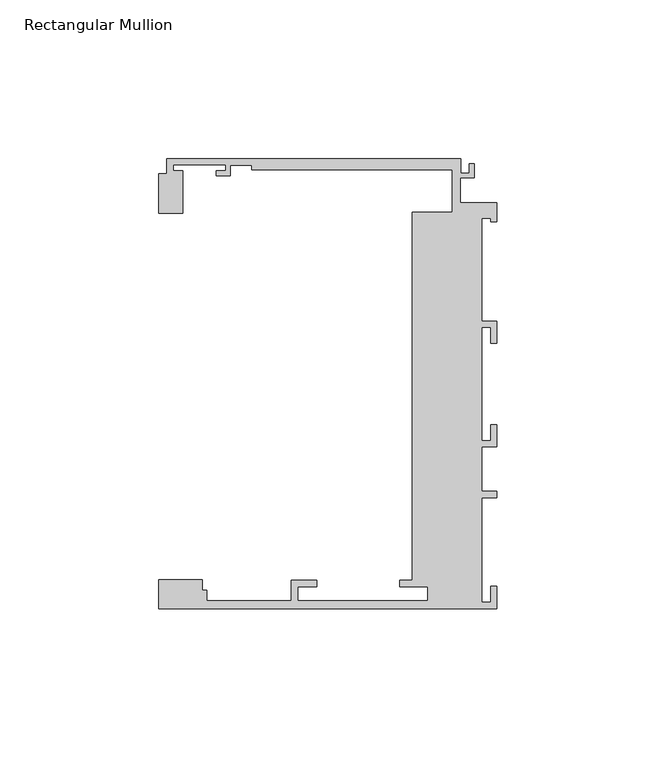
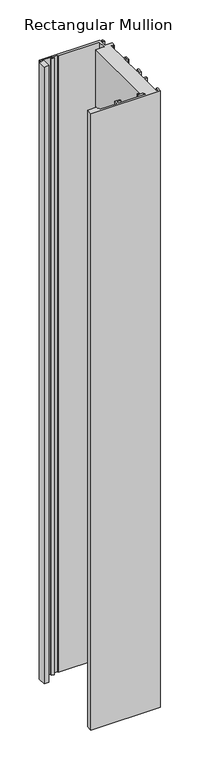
"""IFC4 building model written with IfcOpenShell, lengths in millimetres: member geometry, Rectangular Mullion : Danpal_K12_End-Mullion_B2."""

from ifc_helpers import new_model, si_unit, frame, origin, place, context, project, spatial, polyline, outline, extrude, source, transform, mapped, element, save


def rectangular_mullion_a3500bbd(model_context):
    return source(origin(), model_context, "Body", "SweptSolid", [
        extrude(outline(polyline([(-26.6209612, -1.9446289), (-14.1055875, -1.9446289), (-14.1055875, 11.3051512), (-77.1531178, 11.3051512), (-77.1531178, 12.8051513), (-83.8999976, 12.8051513), (-83.8999976, 9.5051512), (-88.3999976, 9.5051512), (-88.3999976, 11.0051513), (-85.3999976, 11.0051513), (-85.3999976, 13.0051512), (-101.8999976, 13.0051512), (-101.8999976, 11.0051513), (-98.8999976, 11.0051513), (-98.8999976, -2.316674), (-106.4117426, -2.316674), (-106.4117426, 10.065304), (-103.8999976, 10.065304), (-103.8999976, 14.8051514), (-11.4019537, 14.8051514), (-11.4019537, 10.3006425), (-8.6518595, 10.3006425), (-8.6518595, 13.3051514), (-7.1518595, 13.3051514), (-7.1518595, 8.8006425), (-11.6055875, 8.8006425), (-11.6055875, 1.0551514), (0.0, 1.0551514), (0.0, -4.9448486), (-2.0, -4.9448486), (-2.0, -3.9448486), (-4.8, -3.9448486), (-4.8, -36.2443486), (0.0, -36.2443486), (0.0, -43.2443486), (-2.0, -43.2443486), (-2.0, -38.2443486), (-4.8, -38.2443486), (-4.8, -73.8676657), (-2.0, -73.8676657), (-2.0, -68.8676657), (0.0, -68.8676657), (0.0, -75.867683), (-4.8, -75.867683), (-4.8, -89.8676485), (0.0, -89.8676485), (0.0, -91.8676485), (-4.8, -91.8676485), (-4.8, -124.7676657), (-2.0, -124.7676657), (-2.0, -119.7676657), (0.0, -119.7676657), (0.0, -126.7676657), (-106.4117426, -126.7676657), (-106.4117426, -117.6986749), (-92.8228167, -117.6986749), (-92.8228167, -121.0676175), (-91.2900275, -121.0676175), (-91.2900275, -124.2676658), (-64.7350275, -124.2676658), (-64.7350275, -117.8676658), (-56.7350275, -117.8676658), (-56.7350275, -119.8676658), (-62.7350275, -119.8676658), (-62.7350275, -124.2676658), (-21.835, -124.2676658), (-21.835, -119.8676658), (-30.6, -119.8676658), (-30.6, -117.8676658), (-26.6209612, -117.8676658), (-26.6209612, -1.9446289)])), frame((0.0, 0.0, -1000.0), z_axis=(0.0, 0.0, 1.0), x_axis=(1.0, 0.0, 0.0)), (0.0, 0.0, 1.0), 1000.0),
    ])


if __name__ == "__main__":
    model = new_model("IFC4")
    model_context = context("Model", 3, world=origin())
    ifc_project = project(units=[si_unit("LENGTHUNIT", "METRE", prefix="MILLI")], contexts=[model_context])
    site = spatial("IfcSite", under=ifc_project)
    building = spatial("IfcBuilding", under=site)
    placement = place(None, origin())
    rectangular_mullion_shape = rectangular_mullion_a3500bbd(model_context)
    element("IfcMember", 1, ObjectType="Rectangular Mullion : Danpal_K12_End-Mullion_B2", at=placement, inside=building, context=model_context, shape_type="MappedRepresentation", body=[
        mapped(rectangular_mullion_shape, transform((0.0, 0.0, 0.0), x_axis=(1.0, 0.0, 0.0), y_axis=(0.0, 1.0, 0.0), z_axis=(0.0, 0.0, 1.0))),
    ])
    save(model, "model.ifc")
